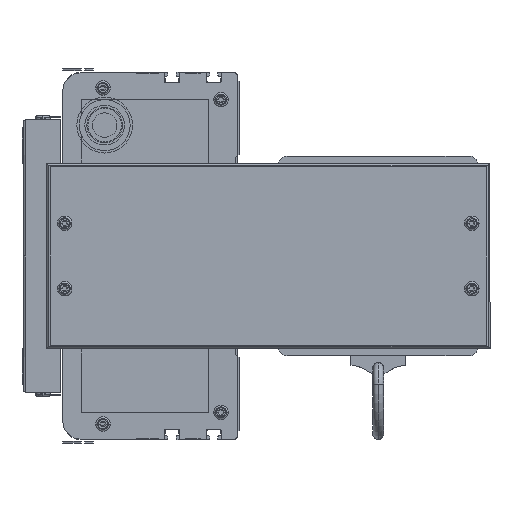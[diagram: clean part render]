
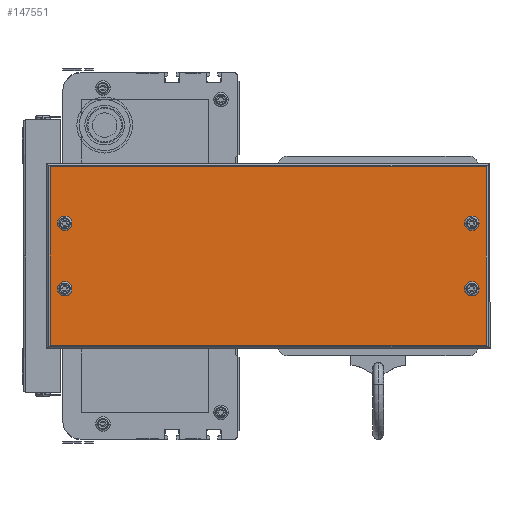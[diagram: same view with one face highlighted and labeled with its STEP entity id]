
A CAD part, left-side view. The second image highlights one B-rep face of the part: STEP entity #147551.
In plain terms, the highlighted planar face has unit normal (-1, 0, 0) as drawn and (1, 0, 0) by its records, which use the part's own axes.
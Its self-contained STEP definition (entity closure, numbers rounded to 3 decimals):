
#31469 = CARTESIAN_POINT ( 'NONE',  ( 50., 10., -33. ) ) ;
#31475 = CARTESIAN_POINT ( 'NONE',  ( 50., 10., -30.5 ) ) ;
#31487 = AXIS2_PLACEMENT_3D ( 'NONE', #31469, #31575, #31573 ) ;
#31501 = DIRECTION ( 'NONE',  ( 0., 0., -1. ) ) ;
#31503 = DIRECTION ( 'NONE',  ( 1., 0., 0. ) ) ;
#31504 = AXIS2_PLACEMENT_3D ( 'NONE', #31534, #31503, #31501 ) ;
#31516 = CIRCLE ( 'NONE', #31504, 2.5 ) ;
#31520 = CARTESIAN_POINT ( 'NONE',  ( 50., 242., -2. ) ) ;
#31534 = CARTESIAN_POINT ( 'NONE',  ( 50., 234., -33. ) ) ;
#31545 = DIRECTION ( 'NONE',  ( 0., -1., 0. ) ) ;
#31546 = VECTOR ( 'NONE', #31545, 1000. ) ;
#31547 = CARTESIAN_POINT ( 'NONE',  ( 50., 244., -2. ) ) ;
#31548 = LINE ( 'NONE', #31547, #31546 ) ;
#31549 = DIRECTION ( 'NONE',  ( 0., 0., -1. ) ) ;
#31550 = VECTOR ( 'NONE', #31549, 1000. ) ;
#31553 = DIRECTION ( 'NONE',  ( 0., 0., -1. ) ) ;
#31555 = DIRECTION ( 'NONE',  ( 1., 0., 0. ) ) ;
#31556 = CARTESIAN_POINT ( 'NONE',  ( 50., 234., -69. ) ) ;
#31561 = CARTESIAN_POINT ( 'NONE',  ( 50., 10., -35.5 ) ) ;
#31562 = CARTESIAN_POINT ( 'NONE',  ( 50., 2., 0. ) ) ;
#31564 = LINE ( 'NONE', #31562, #31550 ) ;
#31571 = AXIS2_PLACEMENT_3D ( 'NONE', #31556, #31555, #31553 ) ;
#31573 = DIRECTION ( 'NONE',  ( 0., 0., -1. ) ) ;
#31575 = DIRECTION ( 'NONE',  ( 1., 0., 0. ) ) ;
#31579 = CARTESIAN_POINT ( 'NONE',  ( 50., 234., -66.5 ) ) ;
#31583 = CIRCLE ( 'NONE', #31487, 2.5 ) ;
#31594 = CIRCLE ( 'NONE', #31571, 2.5 ) ;
#31600 = CARTESIAN_POINT ( 'NONE',  ( 50., 10., -66.5 ) ) ;
#31776 = CARTESIAN_POINT ( 'NONE',  ( 50., 10., -71.5 ) ) ;
#31820 = FACE_BOUND ( 'NONE', #147888, .T. ) ;
#31826 = FACE_BOUND ( 'NONE', #148237, .T. ) ;
#31829 = FACE_OUTER_BOUND ( 'NONE', #147581, .T. ) ;
#31830 = FACE_BOUND ( 'NONE', #148299, .T. ) ;
#31857 = AXIS2_PLACEMENT_3D ( 'NONE', #31880, #31879, #31878 ) ;
#31860 = CARTESIAN_POINT ( 'NONE',  ( 50., 234., -35.5 ) ) ;
#31878 = DIRECTION ( 'NONE',  ( 0., 0., 1. ) ) ;
#31879 = DIRECTION ( 'NONE',  ( -1., 0., 0. ) ) ;
#31880 = CARTESIAN_POINT ( 'NONE',  ( 50., 244., 0. ) ) ;
#31884 = CARTESIAN_POINT ( 'NONE',  ( 50., 234., -30.5 ) ) ;
#31887 = FACE_BOUND ( 'NONE', #148084, .T. ) ;
#31890 = PLANE ( 'NONE',  #31857 ) ;
#31907 = CARTESIAN_POINT ( 'NONE',  ( 50., 2., -100. ) ) ;
#31908 = CARTESIAN_POINT ( 'NONE',  ( 50., 2., -2. ) ) ;
#31963 = DIRECTION ( 'NONE',  ( 0., 0., -1. ) ) ;
#31964 = DIRECTION ( 'NONE',  ( 1., 0., 0. ) ) ;
#31965 = CARTESIAN_POINT ( 'NONE',  ( 50., 10., -69. ) ) ;
#31966 = AXIS2_PLACEMENT_3D ( 'NONE', #31965, #31964, #31963 ) ;
#31967 = CIRCLE ( 'NONE', #31966, 2.5 ) ;
#32193 = AXIS2_PLACEMENT_3D ( 'NONE', #32253, #32252, #32251 ) ;
#32206 = CIRCLE ( 'NONE', #32193, 2.5 ) ;
#32251 = DIRECTION ( 'NONE',  ( 0., 0., -1. ) ) ;
#32252 = DIRECTION ( 'NONE',  ( 1., 0., 0. ) ) ;
#32253 = CARTESIAN_POINT ( 'NONE',  ( 50., 234., -69. ) ) ;
#32292 = CARTESIAN_POINT ( 'NONE',  ( 50., 242., 0. ) ) ;
#32293 = LINE ( 'NONE', #32292, #32350 ) ;
#32303 = DIRECTION ( 'NONE',  ( 0., 0., -1. ) ) ;
#32304 = DIRECTION ( 'NONE',  ( 1., 0., 0. ) ) ;
#32305 = CARTESIAN_POINT ( 'NONE',  ( 50., 10., -33. ) ) ;
#32306 = AXIS2_PLACEMENT_3D ( 'NONE', #32305, #32304, #32303 ) ;
#32309 = AXIS2_PLACEMENT_3D ( 'NONE', #32356, #32355, #32354 ) ;
#32311 = CIRCLE ( 'NONE', #32309, 2.5 ) ;
#32312 = CIRCLE ( 'NONE', #32306, 2.5 ) ;
#32322 = CARTESIAN_POINT ( 'NONE',  ( 50., 234., -71.5 ) ) ;
#32349 = DIRECTION ( 'NONE',  ( 0., 0., 1. ) ) ;
#32350 = VECTOR ( 'NONE', #32349, 1000. ) ;
#32354 = DIRECTION ( 'NONE',  ( 0., 0., -1. ) ) ;
#32355 = DIRECTION ( 'NONE',  ( 1., 0., 0. ) ) ;
#32356 = CARTESIAN_POINT ( 'NONE',  ( 50., 10., -69. ) ) ;
#32375 = DIRECTION ( 'NONE',  ( 0., 1., 0. ) ) ;
#32376 = VECTOR ( 'NONE', #32375, 1000. ) ;
#32377 = CARTESIAN_POINT ( 'NONE',  ( 50., 244., -100. ) ) ;
#32378 = LINE ( 'NONE', #32377, #32376 ) ;
#32469 = CIRCLE ( 'NONE', #32477, 2.5 ) ;
#32477 = AXIS2_PLACEMENT_3D ( 'NONE', #32480, #32516, #32515 ) ;
#32480 = CARTESIAN_POINT ( 'NONE',  ( 50., 234., -33. ) ) ;
#32501 = CARTESIAN_POINT ( 'NONE',  ( 50., 242., -100. ) ) ;
#32515 = DIRECTION ( 'NONE',  ( 0., 0., -1. ) ) ;
#32516 = DIRECTION ( 'NONE',  ( 1., 0., 0. ) ) ;
#147295 = EDGE_CURVE ( 'NONE', #147557, #147572, #31516, .T. ) ;
#147309 = VERTEX_POINT ( 'NONE', #31520 ) ;
#147312 = VERTEX_POINT ( 'NONE', #31475 ) ;
#147325 = EDGE_CURVE ( 'NONE', #147312, #147340, #31583, .T. ) ;
#147326 = VERTEX_POINT ( 'NONE', #31579 ) ;
#147327 = EDGE_CURVE ( 'NONE', #147326, #148134, #31594, .T. ) ;
#147331 = ORIENTED_EDGE ( 'NONE', *, *, #147334, .T. ) ;
#147333 = ORIENTED_EDGE ( 'NONE', *, *, #147336, .T. ) ;
#147334 = EDGE_CURVE ( 'NONE', #147588, #147589, #31564, .T. ) ;
#147336 = EDGE_CURVE ( 'NONE', #147309, #147588, #31548, .T. ) ;
#147338 = ORIENTED_EDGE ( 'NONE', *, *, #148118, .T. ) ;
#147340 = VERTEX_POINT ( 'NONE', #31561 ) ;
#147387 = VERTEX_POINT ( 'NONE', #31600 ) ;
#147419 = VERTEX_POINT ( 'NONE', #31776 ) ;
#147551 = ADVANCED_FACE ( 'NONE', ( #31829, #31887, #31826, #31830, #31820 ), #31890, .F. ) ;
#147557 = VERTEX_POINT ( 'NONE', #31884 ) ;
#147572 = VERTEX_POINT ( 'NONE', #31860 ) ;
#147581 = EDGE_LOOP ( 'NONE', ( #147333, #147331, #147338, #148082 ) ) ;
#147588 = VERTEX_POINT ( 'NONE', #31908 ) ;
#147589 = VERTEX_POINT ( 'NONE', #31907 ) ;
#147695 = EDGE_CURVE ( 'NONE', #147387, #147419, #31967, .T. ) ;
#147888 = EDGE_LOOP ( 'NONE', ( #147953, #148017 ) ) ;
#147951 = ORIENTED_EDGE ( 'NONE', *, *, #147695, .F. ) ;
#147953 = ORIENTED_EDGE ( 'NONE', *, *, #148240, .F. ) ;
#147955 = ORIENTED_EDGE ( 'NONE', *, *, #147325, .F. ) ;
#147956 = EDGE_CURVE ( 'NONE', #148134, #147326, #32206, .T. ) ;
#147957 = ORIENTED_EDGE ( 'NONE', *, *, #148038, .F. ) ;
#147959 = ORIENTED_EDGE ( 'NONE', *, *, #147327, .F. ) ;
#148017 = ORIENTED_EDGE ( 'NONE', *, *, #147295, .F. ) ;
#148036 = ORIENTED_EDGE ( 'NONE', *, *, #148068, .F. ) ;
#148038 = EDGE_CURVE ( 'NONE', #147340, #147312, #32312, .T. ) ;
#148068 = EDGE_CURVE ( 'NONE', #147419, #147387, #32311, .T. ) ;
#148069 = EDGE_CURVE ( 'NONE', #148275, #147309, #32293, .T. ) ;
#148082 = ORIENTED_EDGE ( 'NONE', *, *, #148069, .T. ) ;
#148084 = EDGE_LOOP ( 'NONE', ( #148036, #147951 ) ) ;
#148118 = EDGE_CURVE ( 'NONE', #147589, #148275, #32378, .T. ) ;
#148124 = ORIENTED_EDGE ( 'NONE', *, *, #147956, .F. ) ;
#148134 = VERTEX_POINT ( 'NONE', #32322 ) ;
#148237 = EDGE_LOOP ( 'NONE', ( #147957, #147955 ) ) ;
#148240 = EDGE_CURVE ( 'NONE', #147572, #147557, #32469, .T. ) ;
#148275 = VERTEX_POINT ( 'NONE', #32501 ) ;
#148299 = EDGE_LOOP ( 'NONE', ( #148124, #147959 ) ) ;
